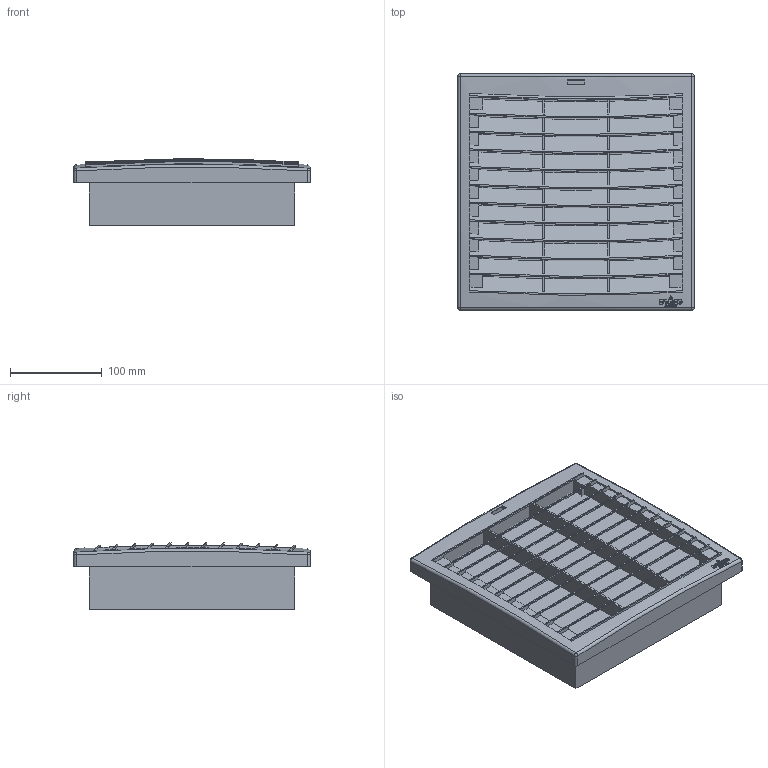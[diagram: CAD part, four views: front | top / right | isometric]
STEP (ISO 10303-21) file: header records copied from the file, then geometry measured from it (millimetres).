
FILE_DESCRIPTION (( 'STEP AP214' ), '1' );
FILE_NAME ('FPI_118_223x223_EPLAN_10_2015.STEP', '2015-10-15T09:27:15', ( '' ), ( '' ), 'SwSTEP 2.0', 'SolidWorks 2015', '' );
FILE_SCHEMA (( 'AUTOMOTIVE_DESIGN' ));
Length unit declared in the file: millimetre
Products named in the file (1): FPI_118_223x223_EPLAN_10_2015
Bounding box: 257 x 257 x 72.28 mm (x, y, z)
Surface area: 318413 mm2 (no closed solid volume)
Topology: 0 solids, 17 shells, 208 faces, 1122 edges, 847 vertices
Faces by surface type: plane 98, sphere 72, bspline 27, cylinder 6, torus 5
Entity records: 14289 total; most frequent: CARTESIAN_POINT 3437, DIRECTION 1795, ORIENTED_EDGE 1664, EDGE_CURVE 1118, VERTEX_POINT 847, AXIS2_PLACEMENT_3D 670, CIRCLE 488, LINE 455
